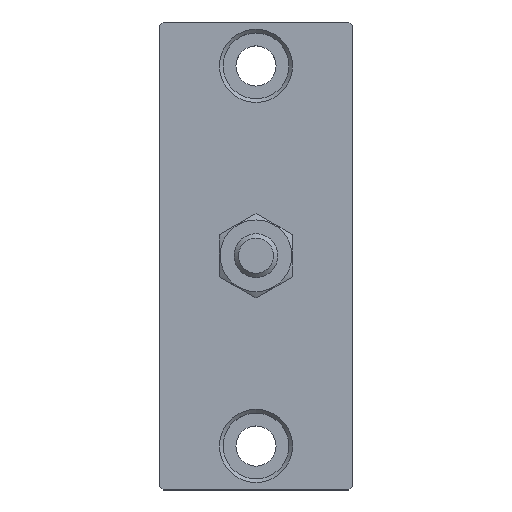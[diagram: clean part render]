
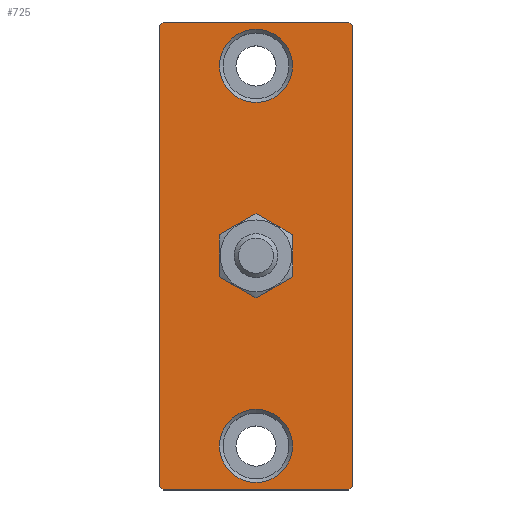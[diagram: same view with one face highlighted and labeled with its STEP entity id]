
A CAD part, top view. The second image highlights one B-rep face of the part: STEP entity #725.
In plain terms, the highlighted planar face has unit normal (0, 0, 1).
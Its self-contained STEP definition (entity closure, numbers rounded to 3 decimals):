
#487=CARTESIAN_POINT('',(-11.983,31.5,14.));
#488=VERTEX_POINT('',#487);
#489=CARTESIAN_POINT('',(-11.483,32.0,14.));
#490=VERTEX_POINT('',#489);
#491=CARTESIAN_POINT('',(-11.983,31.5,14.));
#492=DIRECTION('',(0.707,0.707,0.0));
#493=VECTOR('',#492,0.707);
#494=LINE('',#491,#493);
#495=EDGE_CURVE('',#488,#490,#494,.T.);
#610=CARTESIAN_POINT('',(13.917,32.0,14.));
#611=VERTEX_POINT('',#610);
#612=CARTESIAN_POINT('',(-11.483,32.0,14.));
#613=DIRECTION('',(1.0,0.0,0.0));
#614=VECTOR('',#613,25.4);
#615=LINE('',#612,#614);
#616=EDGE_CURVE('',#490,#611,#615,.T.);
#628=CARTESIAN_POINT('',(1.217,0.,14.));
#629=DIRECTION('',(0.0,0.0,1.0));
#630=DIRECTION('',(1.0,0.0,0.0));
#631=AXIS2_PLACEMENT_3D('',#628,#629,#630);
#632=PLANE('',#631);
#633=ORIENTED_EDGE('',*,*,#495,.F.);
#634=CARTESIAN_POINT('',(-11.983,-31.5,14.));
#635=VERTEX_POINT('',#634);
#636=CARTESIAN_POINT('',(-11.983,-31.5,14.));
#637=DIRECTION('',(0.0,1.0,0.0));
#638=VECTOR('',#637,63.);
#639=LINE('',#636,#638);
#640=EDGE_CURVE('',#635,#488,#639,.T.);
#641=ORIENTED_EDGE('',*,*,#640,.F.);
#642=CARTESIAN_POINT('',(-11.483,-32.0,14.));
#643=VERTEX_POINT('',#642);
#644=CARTESIAN_POINT('',(-11.483,-32.0,14.));
#645=DIRECTION('',(-0.707,0.707,0.0));
#646=VECTOR('',#645,0.707);
#647=LINE('',#644,#646);
#648=EDGE_CURVE('',#643,#635,#647,.T.);
#649=ORIENTED_EDGE('',*,*,#648,.F.);
#650=CARTESIAN_POINT('',(13.917,-32.0,14.));
#651=VERTEX_POINT('',#650);
#652=CARTESIAN_POINT('',(13.917,-32.0,14.));
#653=DIRECTION('',(-1.0,0.0,0.0));
#654=VECTOR('',#653,25.4);
#655=LINE('',#652,#654);
#656=EDGE_CURVE('',#651,#643,#655,.T.);
#657=ORIENTED_EDGE('',*,*,#656,.F.);
#658=CARTESIAN_POINT('',(14.417,-31.5,14.));
#659=VERTEX_POINT('',#658);
#660=CARTESIAN_POINT('',(14.417,-31.5,14.));
#661=DIRECTION('',(-0.707,-0.707,0.0));
#662=VECTOR('',#661,0.707);
#663=LINE('',#660,#662);
#664=EDGE_CURVE('',#659,#651,#663,.T.);
#665=ORIENTED_EDGE('',*,*,#664,.F.);
#666=CARTESIAN_POINT('',(14.417,31.5,14.));
#667=VERTEX_POINT('',#666);
#668=CARTESIAN_POINT('',(14.417,31.5,14.));
#669=DIRECTION('',(0.0,-1.0,0.0));
#670=VECTOR('',#669,63.);
#671=LINE('',#668,#670);
#672=EDGE_CURVE('',#667,#659,#671,.T.);
#673=ORIENTED_EDGE('',*,*,#672,.F.);
#674=CARTESIAN_POINT('',(13.917,32.0,14.));
#675=DIRECTION('',(0.707,-0.707,0.0));
#676=VECTOR('',#675,0.707);
#677=LINE('',#674,#676);
#678=EDGE_CURVE('',#611,#667,#677,.T.);
#679=ORIENTED_EDGE('',*,*,#678,.F.);
#680=ORIENTED_EDGE('',*,*,#616,.F.);
#681=EDGE_LOOP('',(#633,#641,#649,#657,#665,#673,#679,#680));
#682=FACE_OUTER_BOUND('',#681,.T.);
#683=CARTESIAN_POINT('',(6.217,26.0,14.));
#684=VERTEX_POINT('',#683);
#685=CARTESIAN_POINT('',(1.217,26.0,14.));
#686=DIRECTION('',(0.0,0.0,1.0));
#687=DIRECTION('',(-1.0,0.0,0.0));
#688=AXIS2_PLACEMENT_3D('',#685,#686,#687);
#689=CIRCLE('',#688,5.0);
#690=EDGE_CURVE('',#684,#684,#689,.T.);
#691=ORIENTED_EDGE('',*,*,#690,.F.);
#692=EDGE_LOOP('',(#691));
#693=FACE_BOUND('',#692,.T.);
#694=CARTESIAN_POINT('',(1.217,-4.,14.));
#695=VERTEX_POINT('',#694);
#696=CARTESIAN_POINT('',(1.217,4.,14.));
#697=VERTEX_POINT('',#696);
#698=CARTESIAN_POINT('',(1.217,0.0,14.));
#699=DIRECTION('',(0.0,0.0,-1.0));
#700=DIRECTION('',(0.0,1.0,0.0));
#701=AXIS2_PLACEMENT_3D('',#698,#699,#700);
#702=CIRCLE('',#701,4.);
#703=EDGE_CURVE('',#695,#697,#702,.T.);
#704=ORIENTED_EDGE('',*,*,#703,.T.);
#705=CARTESIAN_POINT('',(1.217,0.0,14.));
#706=DIRECTION('',(0.0,0.0,-1.0));
#707=DIRECTION('',(0.0,1.0,0.0));
#708=AXIS2_PLACEMENT_3D('',#705,#706,#707);
#709=CIRCLE('',#708,4.);
#710=EDGE_CURVE('',#697,#695,#709,.T.);
#711=ORIENTED_EDGE('',*,*,#710,.T.);
#712=EDGE_LOOP('',(#704,#711));
#713=FACE_BOUND('',#712,.T.);
#714=CARTESIAN_POINT('',(6.217,-26.0,14.));
#715=VERTEX_POINT('',#714);
#716=CARTESIAN_POINT('',(1.217,-26.0,14.));
#717=DIRECTION('',(0.0,0.0,1.0));
#718=DIRECTION('',(-1.0,0.0,0.0));
#719=AXIS2_PLACEMENT_3D('',#716,#717,#718);
#720=CIRCLE('',#719,5.0);
#721=EDGE_CURVE('',#715,#715,#720,.T.);
#722=ORIENTED_EDGE('',*,*,#721,.F.);
#723=EDGE_LOOP('',(#722));
#724=FACE_BOUND('',#723,.T.);
#725=ADVANCED_FACE('',(#682,#693,#713,#724),#632,.T.);
